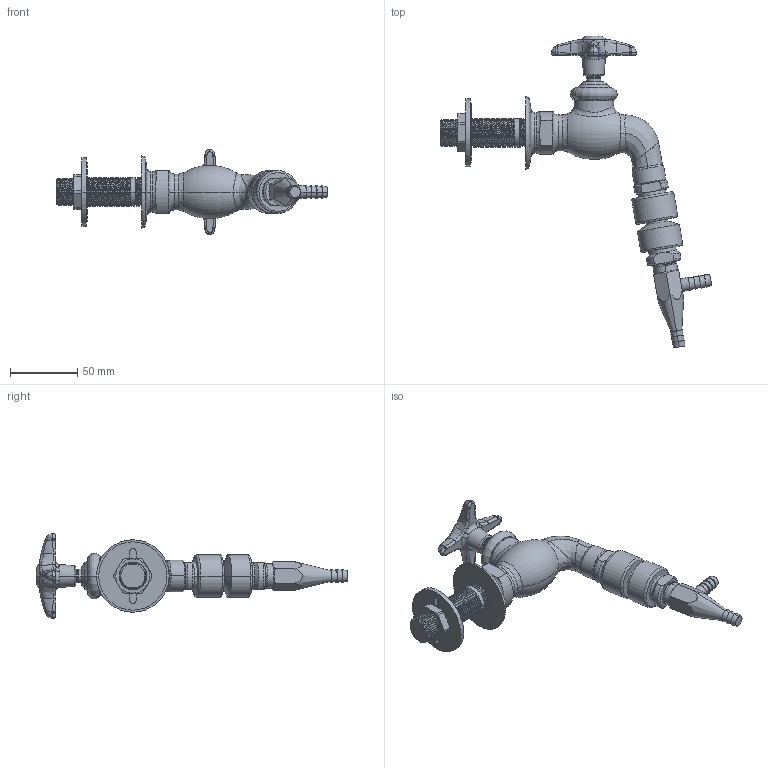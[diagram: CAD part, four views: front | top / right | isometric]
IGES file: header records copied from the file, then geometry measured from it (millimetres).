
Start section:  PTC IGES file: LWV4-C63.igs
Global section: file name: LWV4-C63.igs; native system: Creo Parametric by PTC Inc.; preprocessor: 2014500; author: usch_engrender; organization: Unknown; date: 20150915.132542; units: inch
Bounding box: 202.04 x 232.1 x 63.41 mm (x, y, z)
Volume: 200296.7 mm3; surface area: 44244.1 mm2
Topology: 1 solids, 2 shells, 472 faces, 1140 edges, 691 vertices
Faces by surface type: bspline 256, revolution 216
